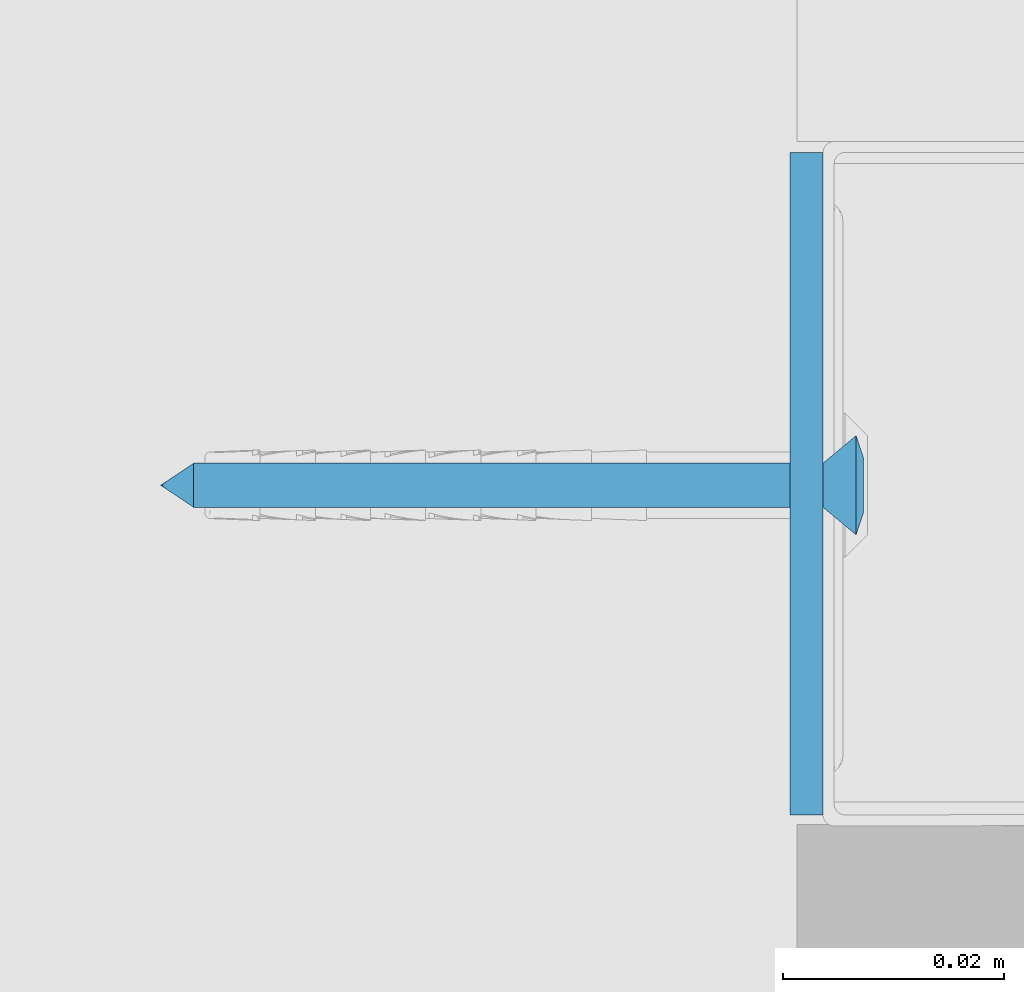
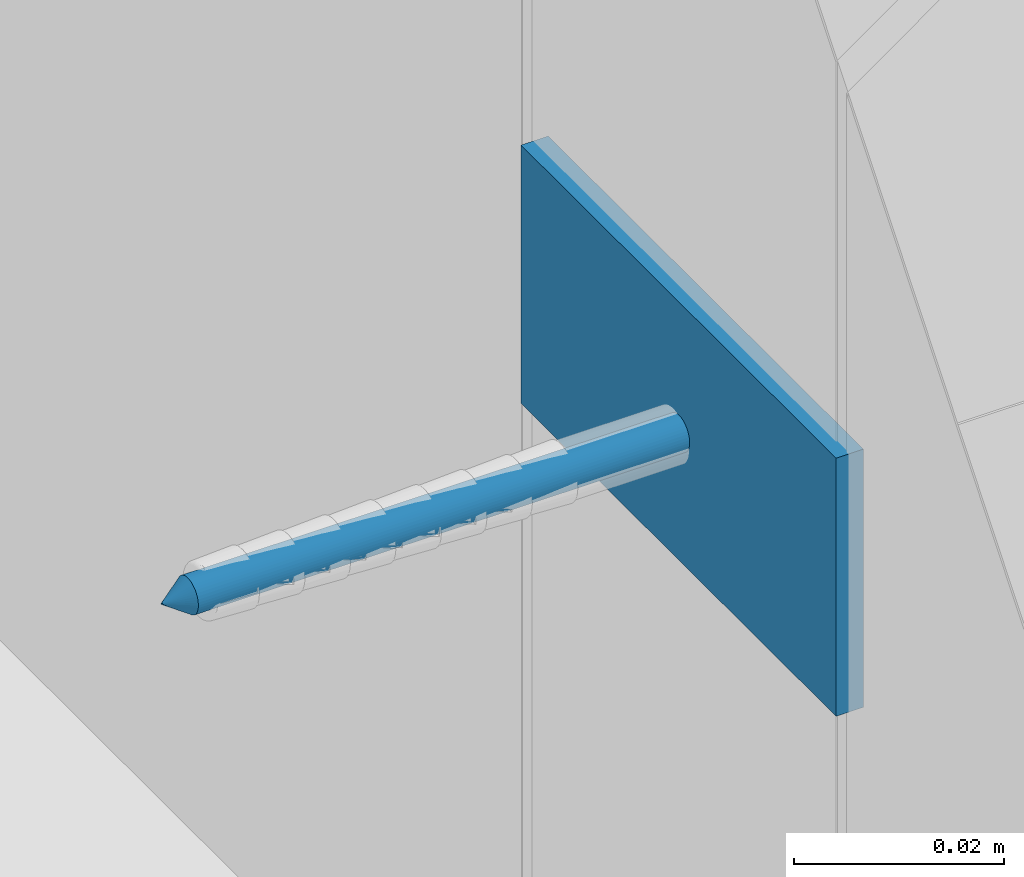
# One storey, part 34 of 62: 2 walls.
"""IFC2X3 building model written with IfcOpenShell, lengths in millimetres."""

from ifc_helpers import new_model, si_unit, frame, origin_with_axes, place, context, subcontext, project, spatial, faceted_brep, material, type_object, element, save


model = new_model("IFC2X3")

# Units and contexts
model_context = context("Model", 3, world=origin_with_axes())
body_context = subcontext(model_context, "Body", "Model", "MODEL_VIEW")
ifc_project = project(units=[si_unit("LENGTHUNIT", "METRE", prefix="MILLI"), si_unit("AREAUNIT", "SQUARE_METRE"), si_unit("VOLUMEUNIT", "CUBIC_METRE")], contexts=[model_context])

# Site, building, storey
site_placement = place(None, frame((2152.14102611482, -2015.0250894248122, 57.61556563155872), z_axis=(0.0, 0.0, 1.0), x_axis=(-1.1102230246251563e-16, 1.0, 0.0)))
site = spatial("IfcSite", under=ifc_project, at=site_placement, Name="Default Site", CompositionType="ELEMENT")
building_placement = place(site_placement, origin_with_axes())
building = spatial("IfcBuilding", under=site, at=building_placement, Name="Default Building", CompositionType="ELEMENT")
storey_placement = place(building_placement, origin_with_axes())
storey = spatial("IfcBuildingStorey", under=building, at=storey_placement, Name="Default Building Storey", CompositionType="ELEMENT", Elevation=57.61556563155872)

# Walls
ifc_material = material(Name="Default")
wall_type_1 = type_object("IfcWallType", Name="Kołek rozporowy min. fi 6#35", PredefinedType="NOTDEFINED")
wall_1_placement = place(storey_placement, frame((5691.176283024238, 2016.3286110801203, 1539.671890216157), z_axis=(-6.858158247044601e-13, -1.0, 7.64238051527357e-14), x_axis=(-1.6476028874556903e-11, 7.642380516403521e-14, 1.0)))
element("IfcWall", 1, at=wall_1_placement, inside=storey, type_object=wall_type_1, material=ifc_material, Name="Kołek rozporowy min. fi 6", context=body_context, shape_type="Brep", body=[
    faceted_brep([(-1438.3141994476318, 3453.2833099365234, -0.46425670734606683), (-1435.8141422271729, 3453.2833099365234, -3.464256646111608), (-1435.7895851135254, 3452.970266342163, -3.464256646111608), (-1438.2587671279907, 3452.579259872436, -0.46425670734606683), (-1435.7162714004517, 3452.6650905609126, -3.464256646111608), (-1438.093900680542, 3451.892614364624, -0.46425670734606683), (-1435.5961084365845, 3452.3751735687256, -3.464256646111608), (-1437.8236532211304, 3451.240301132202, -0.46425670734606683), (-1435.4321956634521, 3452.107667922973, -3.464256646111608), (-1437.4547004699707, 3450.6382942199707, -0.46425670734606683), (-1435.22834777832, 3451.8690109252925, -3.464256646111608), (-1436.9961023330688, 3450.101137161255, -0.46425670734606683), (-1434.9896907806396, 3451.665163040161, -3.464256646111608), (-1436.4591836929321, 3449.642658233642, -0.46425670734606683), (-1434.7221851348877, 3451.501131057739, -3.464256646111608), (-1435.8570575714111, 3449.2735862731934, -0.46425670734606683), (-1434.4321489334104, 3451.381206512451, -3.464256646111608), (-1435.2047443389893, 3449.0034580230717, -0.46425670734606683), (-1434.1269731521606, 3451.307773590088, -3.464256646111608), (-1434.5180988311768, 3448.838710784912, -0.46425670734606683), (-1433.8141679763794, 3451.28321647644, -3.464256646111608), (-1433.8141679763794, 3448.7831592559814, -0.46425670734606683), (-1433.5012435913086, 3451.307773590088, -3.464256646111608), (-1433.110237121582, 3448.838710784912, -0.46425670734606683), (-1433.1960678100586, 3451.381206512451, -3.464256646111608), (-1432.4235916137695, 3449.0034580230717, -0.46425670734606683), (-1432.9061508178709, 3451.501131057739, -3.464256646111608), (-1431.771159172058, 3449.2735862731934, -0.46425670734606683), (-1432.6385259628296, 3451.665163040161, -3.464256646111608), (-1431.1691522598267, 3449.642658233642, -0.46425670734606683), (-1432.3999881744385, 3451.8690109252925, -3.464256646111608), (-1430.6321144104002, 3450.101137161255, -0.46425670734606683), (-1432.1961402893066, 3452.107667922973, -3.464256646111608), (-1430.1735162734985, 3450.6382942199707, -0.46425670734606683), (-1432.0321083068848, 3452.3751735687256, -3.464256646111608), (-1429.8045635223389, 3451.240301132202, -0.46425670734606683), (-1431.9120645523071, 3452.6650905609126, -3.464256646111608), (-1429.5344352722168, 3451.892614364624, -0.46425670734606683), (-1431.8387508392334, 3453.5961151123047, -3.464256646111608), (-1429.369568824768, 3453.9871215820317, -0.46425670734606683), (-1429.314136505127, 3453.2833099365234, -0.46425670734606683), (-1431.814193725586, 3453.2833099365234, -3.464256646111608), (-1429.369568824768, 3452.579259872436, -0.46425670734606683), (-1431.8387508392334, 3452.970266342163, -3.464256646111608), (-1431.9120645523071, 3453.9012908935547, -3.464256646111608), (-1429.5344352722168, 3454.6737670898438, -0.46425670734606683), (-1432.0321083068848, 3454.191207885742, -3.464256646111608), (-1429.8045635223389, 3455.3260803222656, -0.46425670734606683), (-1432.1961402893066, 3454.458713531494, -3.464256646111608), (-1430.1735162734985, 3455.9283256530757, -0.46425670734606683), (-1432.3999881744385, 3454.6973705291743, -3.464256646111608), (-1430.6321144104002, 3456.465244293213, -0.46425670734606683), (-1432.6385259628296, 3454.9012184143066, -3.464256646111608), (-1431.1691522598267, 3456.923723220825, -0.46425670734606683), (-1432.9061508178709, 3455.065250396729, -3.464256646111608), (-1431.771159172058, 3457.2927951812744, -0.46425670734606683), (-1433.1960678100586, 3455.1854133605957, -3.464256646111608), (-1432.4235916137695, 3457.562923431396, -0.46425670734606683), (-1433.5012435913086, 3455.25860786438, -3.464256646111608), (-1433.110237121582, 3457.7279090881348, -0.46425670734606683), (-1433.8141679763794, 3455.283164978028, -3.464256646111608), (-1433.8141679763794, 3457.7832221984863, -0.46425670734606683), (-1434.3430995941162, 3457.7519893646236, -0.46425670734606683), (-1434.1269731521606, 3455.25860786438, -3.464256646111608), (-1434.4321489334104, 3455.1854133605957, -3.464256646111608), (-1434.8646402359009, 3457.6590061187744, -0.46425670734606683), (-1435.3716373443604, 3457.504987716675, -0.46425670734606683), (-1434.7221851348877, 3455.065250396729, -3.464256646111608), (-1435.8570575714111, 3457.2927951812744, -0.46425670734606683), (-1434.9896907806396, 3454.9012184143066, -3.464256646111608), (-1435.22834777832, 3454.6973705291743, -3.464256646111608), (-1436.3142251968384, 3457.024812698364, -0.46425670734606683), (-1436.7367029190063, 3456.705093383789, -0.46425670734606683), (-1437.118649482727, 3456.337928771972, -0.46425670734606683), (-1437.4547004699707, 3455.9283256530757, -0.46425670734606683), (-1435.4321956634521, 3454.458713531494, -3.464256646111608), (-1435.5961084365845, 3454.191207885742, -3.464256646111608), (-1437.8236532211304, 3455.3260803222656, -0.46425670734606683), (-1435.7162714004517, 3453.9012908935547, -3.464256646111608), (-1438.093900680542, 3454.6737670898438, -0.46425670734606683), (-1435.7895851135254, 3453.5961151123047, -3.464256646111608), (-1438.2587671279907, 3453.9871215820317, -0.46425670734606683), (-1434.2052936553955, 3455.752372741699, 0.20073754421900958), (-1433.8141679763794, 3455.7831287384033, 0.20073754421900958), (-1434.5866441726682, 3455.6608200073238, 0.20073754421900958), (-1434.9491596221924, 3455.510854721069, 0.20073754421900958), (-1435.2836608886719, 3455.305814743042, 0.20073754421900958), (-1435.581922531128, 3455.0509452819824, 0.20073754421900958), (-1435.836672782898, 3454.7526836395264, 0.20073754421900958), (-1436.0417127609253, 3454.418182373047, 0.20073754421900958), (-1436.1917972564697, 3454.0557861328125, 0.20073754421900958), (-1436.2833499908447, 3453.6743164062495, 0.20073754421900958), (-1436.3141059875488, 3453.2833099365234, 0.20073754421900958), (-1436.2833499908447, 3452.8920650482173, 0.20073754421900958), (-1436.1917972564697, 3452.5105953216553, 0.20073754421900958), (-1436.0417127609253, 3452.148199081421, 0.20073754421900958), (-1435.836672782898, 3451.8136978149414, 0.20073754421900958), (-1435.581922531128, 3451.5154361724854, 0.20073754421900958), (-1435.2836608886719, 3451.260566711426, 0.20073754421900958), (-1434.9491596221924, 3451.0557651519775, 0.20073754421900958), (-1434.5866441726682, 3450.905561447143, 0.20073754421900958), (-1433.4230422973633, 3450.8140087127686, 0.20073754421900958), (-1433.8141679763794, 3450.7832527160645, 0.20073754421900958), (-1434.2052936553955, 3450.8140087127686, 0.20073754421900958), (-1433.0415725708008, 3450.905561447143, 0.20073754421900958), (-1432.6791763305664, 3451.0557651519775, 0.20073754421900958), (-1432.344675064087, 3451.260566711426, 0.20073754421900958), (-1432.0464134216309, 3451.5154361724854, 0.20073754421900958), (-1431.7916631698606, 3451.8136978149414, 0.20073754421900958), (-1431.5866231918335, 3452.148199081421, 0.20073754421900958), (-1431.436538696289, 3452.5105953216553, 0.20073754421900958), (-1431.344985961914, 3452.8920650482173, 0.20073754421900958), (-1431.3141107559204, 3453.2833099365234, 0.20073754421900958), (-1431.344985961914, 3453.6743164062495, 0.20073754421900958), (-1431.436538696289, 3454.0557861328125, 0.20073754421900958), (-1431.5866231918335, 3454.418182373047, 0.20073754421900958), (-1431.7916631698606, 3454.7526836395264, 0.20073754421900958), (-1432.0464134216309, 3455.0509452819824, 0.20073754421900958), (-1432.344675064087, 3455.305814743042, 0.20073754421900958), (-1432.6791763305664, 3455.510854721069, 0.20073754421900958), (-1433.0415725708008, 3455.6608200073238, 0.20073754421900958), (-1433.4230422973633, 3455.752372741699, 0.20073754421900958), (-1433.8141679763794, 3453.2833099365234, -63.46425414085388), (-1435.7895851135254, 3452.970266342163, -60.464255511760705), (-1435.8141422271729, 3453.2833099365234, -60.464255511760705), (-1435.7162714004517, 3452.6650905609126, -60.464255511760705), (-1435.5961084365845, 3452.3751735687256, -60.464255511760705), (-1435.4321956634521, 3452.107667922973, -60.464255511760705), (-1435.22834777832, 3451.8690109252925, -60.464255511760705), (-1434.9896907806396, 3451.665163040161, -60.464255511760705), (-1434.7221851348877, 3451.501131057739, -60.464255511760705), (-1434.4321489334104, 3451.381206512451, -60.464255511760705), (-1434.1269731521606, 3451.307773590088, -60.464255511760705), (-1433.8141679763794, 3451.28321647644, -60.464255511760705), (-1433.5012435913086, 3451.307773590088, -60.464255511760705), (-1433.1960678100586, 3451.381206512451, -60.464255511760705), (-1432.9061508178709, 3451.501131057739, -60.464255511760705), (-1432.6385259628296, 3451.665163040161, -60.464255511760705), (-1432.3999881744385, 3451.8690109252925, -60.464255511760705), (-1432.1961402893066, 3452.107667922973, -60.464255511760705), (-1432.0321083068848, 3452.3751735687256, -60.464255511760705), (-1431.9120645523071, 3452.6650905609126, -60.464255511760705), (-1431.8387508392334, 3452.970266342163, -60.464255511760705), (-1431.814193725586, 3453.2833099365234, -60.464255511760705), (-1431.8387508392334, 3453.5961151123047, -60.464255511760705), (-1431.9120645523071, 3453.9012908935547, -60.464255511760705), (-1432.0321083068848, 3454.191207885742, -60.464255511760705), (-1432.1961402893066, 3454.458713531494, -60.464255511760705), (-1432.3999881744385, 3454.6973705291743, -60.464255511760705), (-1432.6385259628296, 3454.9012184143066, -60.464255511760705), (-1432.9061508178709, 3455.065250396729, -60.464255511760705), (-1433.1960678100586, 3455.1854133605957, -60.464255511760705), (-1433.5012435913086, 3455.25860786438, -60.464255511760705), (-1433.8141679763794, 3455.283164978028, -60.464255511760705), (-1434.1269731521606, 3455.25860786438, -60.464255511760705), (-1434.4321489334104, 3455.1854133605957, -60.464255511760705), (-1434.7221851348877, 3455.065250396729, -60.464255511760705), (-1434.9896907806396, 3454.9012184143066, -60.464255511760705), (-1435.22834777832, 3454.6973705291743, -60.464255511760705), (-1435.4321956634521, 3454.458713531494, -60.464255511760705), (-1435.5961084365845, 3454.191207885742, -60.464255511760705), (-1435.7162714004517, 3453.9012908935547, -60.464255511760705), (-1435.7895851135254, 3453.5961151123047, -60.464255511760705), (-1436.0417127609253, 3454.418182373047, 0.049999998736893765), (-1436.1917972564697, 3454.0557861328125, 0.049999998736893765), (-1436.2833499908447, 3453.6743164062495, 0.049999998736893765), (-1436.3141059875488, 3453.2833099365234, 0.049999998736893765), (-1436.2833499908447, 3452.8920650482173, 0.049999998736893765), (-1436.1917972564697, 3452.5105953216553, 0.049999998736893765), (-1436.0417127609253, 3452.148199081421, 0.049999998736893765), (-1435.836672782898, 3451.8136978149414, 0.049999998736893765), (-1435.581922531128, 3451.5154361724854, 0.049999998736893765), (-1435.2836608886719, 3451.260566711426, 0.049999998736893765), (-1434.9491596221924, 3451.0557651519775, 0.049999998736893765), (-1434.5866441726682, 3450.905561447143, 0.049999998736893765), (-1434.2052936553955, 3450.8140087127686, 0.049999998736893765), (-1433.8141679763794, 3450.7832527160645, 0.049999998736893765), (-1433.4230422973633, 3450.8140087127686, 0.049999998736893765), (-1433.0415725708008, 3450.905561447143, 0.049999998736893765), (-1432.6791763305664, 3451.0557651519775, 0.049999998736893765), (-1432.344675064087, 3451.260566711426, 0.049999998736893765), (-1432.0464134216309, 3451.5154361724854, 0.049999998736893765), (-1431.7916631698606, 3451.8136978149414, 0.049999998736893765), (-1431.5866231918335, 3452.148199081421, 0.049999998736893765), (-1431.436538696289, 3452.5105953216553, 0.049999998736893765), (-1431.344985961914, 3452.8920650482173, 0.049999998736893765), (-1431.3141107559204, 3453.2833099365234, 0.049999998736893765), (-1431.344985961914, 3453.6743164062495, 0.049999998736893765), (-1431.436538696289, 3454.0557861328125, 0.049999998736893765), (-1431.5866231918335, 3454.418182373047, 0.049999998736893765), (-1431.7916631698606, 3454.7526836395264, 0.049999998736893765), (-1432.0464134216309, 3455.0509452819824, 0.049999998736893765), (-1432.344675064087, 3455.305814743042, 0.049999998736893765), (-1432.6791763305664, 3455.510854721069, 0.049999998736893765), (-1433.0415725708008, 3455.6608200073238, 0.049999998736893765), (-1433.4230422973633, 3455.752372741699, 0.049999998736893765), (-1433.8141679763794, 3455.7831287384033, 0.049999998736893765), (-1434.2052936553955, 3455.752372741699, 0.049999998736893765), (-1434.5866441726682, 3455.6608200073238, 0.049999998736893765), (-1434.9491596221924, 3455.510854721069, 0.049999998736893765), (-1435.2836608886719, 3455.305814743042, 0.049999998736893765), (-1435.581922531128, 3455.0509452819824, 0.049999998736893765), (-1435.836672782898, 3454.7526836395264, 0.049999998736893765), (-1434.3141317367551, 3452.7831077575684, 0.049999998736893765), (-1435.8141422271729, 3452.7831077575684, 0.049999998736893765), (-1435.8141422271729, 3453.7832736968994, 0.049999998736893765), (-1434.3141317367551, 3453.7832736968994, 0.049999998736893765), (-1434.3141317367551, 3455.283164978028, 0.049999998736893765), (-1433.3142042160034, 3455.283164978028, 0.049999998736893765), (-1433.3142042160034, 3453.7832736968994, 0.049999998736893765), (-1431.814193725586, 3453.7832736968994, 0.049999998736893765), (-1431.814193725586, 3452.7831077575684, 0.049999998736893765), (-1433.3142042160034, 3452.7831077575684, 0.049999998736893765), (-1433.3142042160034, 3451.28321647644, 0.049999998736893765), (-1434.3141317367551, 3451.28321647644, 0.049999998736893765), (-1434.3141317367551, 3452.7831077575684, -1.799262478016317), (-1434.3141317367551, 3451.28321647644, -1.799262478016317), (-1433.3142042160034, 3451.28321647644, -1.799262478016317), (-1433.3142042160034, 3452.7831077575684, -1.799262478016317), (-1431.814193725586, 3452.7831077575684, -1.799262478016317), (-1431.814193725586, 3453.7832736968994, -1.799262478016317), (-1433.3142042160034, 3453.7832736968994, -1.799262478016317), (-1433.3142042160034, 3455.283164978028, -1.799262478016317), (-1434.3141317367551, 3455.283164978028, -1.799262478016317), (-1434.3141317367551, 3453.7832736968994, -1.799262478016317), (-1435.8141422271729, 3453.7832736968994, -1.799262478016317), (-1435.8141422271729, 3452.7831077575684, -1.799262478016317)], [[[0, 1, 2, 3]], [[4, 5, 3, 2]], [[6, 7, 5, 4]], [[7, 6, 8, 9]], [[10, 11, 9, 8]], [[11, 10, 12, 13]], [[14, 15, 13, 12]], [[16, 17, 15, 14]], [[17, 16, 18, 19]], [[20, 21, 19, 18]], [[21, 20, 22, 23]], [[24, 25, 23, 22]], [[26, 27, 25, 24]], [[27, 26, 28, 29]], [[30, 31, 29, 28]], [[31, 30, 32, 33]], [[34, 35, 33, 32]], [[36, 37, 35, 34]], [[38, 39, 40, 41]], [[41, 40, 42, 43]], [[37, 36, 43, 42]], [[44, 45, 39, 38]], [[46, 47, 45, 44]], [[47, 46, 48, 49]], [[50, 51, 49, 48]], [[51, 50, 52, 53]], [[54, 55, 53, 52]], [[56, 57, 55, 54]], [[57, 56, 58, 59]], [[60, 61, 59, 58]], [[62, 61, 63]], [[61, 60, 63]], [[63, 64, 62]], [[64, 65, 62]], [[66, 65, 64]], [[64, 67, 66]], [[67, 68, 66]], [[69, 70, 71]], [[70, 72, 71]], [[71, 68, 69]], [[68, 67, 69]], [[70, 73, 72]], [[74, 73, 75]], [[73, 70, 75]], [[76, 77, 74, 75]], [[78, 79, 77, 76]], [[79, 78, 80, 81]], [[1, 0, 81, 80]], [[82, 83, 62]], [[83, 61, 62]], [[62, 65, 82]], [[65, 84, 82]], [[66, 68, 84]], [[68, 85, 84]], [[84, 65, 66]], [[86, 85, 71]], [[85, 68, 71]], [[72, 73, 87]], [[87, 86, 72]], [[86, 71, 72]], [[88, 87, 74]], [[87, 73, 74]], [[77, 89, 88, 74]], [[79, 90, 89, 77]], [[90, 79, 81, 91]], [[0, 92, 91, 81]], [[92, 0, 3, 93]], [[5, 94, 93, 3]], [[7, 95, 94, 5]], [[95, 7, 9, 96]], [[11, 97, 96, 9]], [[97, 11, 13, 98]], [[15, 99, 98, 13]], [[17, 100, 99, 15]], [[23, 101, 102, 21]], [[21, 102, 103, 19]], [[100, 17, 19, 103]], [[25, 104, 101, 23]], [[27, 105, 104, 25]], [[105, 27, 29, 106]], [[31, 107, 106, 29]], [[107, 31, 33, 108]], [[35, 109, 108, 33]], [[37, 110, 109, 35]], [[110, 37, 42, 111]], [[40, 112, 111, 42]], [[112, 40, 39, 113]], [[45, 114, 113, 39]], [[47, 115, 114, 45]], [[115, 47, 49, 116]], [[51, 117, 116, 49]], [[117, 51, 53, 118]], [[55, 119, 118, 53]], [[57, 120, 119, 55]], [[120, 57, 59, 121]], [[61, 83, 121, 59]], [[122, 123, 124]], [[122, 125, 123]], [[122, 126, 125]], [[127, 126, 122]], [[122, 128, 127]], [[129, 128, 122]], [[122, 130, 129]], [[122, 131, 130]], [[132, 131, 122]], [[122, 133, 132]], [[134, 133, 122]], [[122, 135, 134]], [[122, 136, 135]], [[137, 136, 122]], [[122, 138, 137]], [[139, 138, 122]], [[122, 140, 139]], [[122, 141, 140]], [[142, 141, 122]], [[122, 143, 142]], [[144, 143, 122]], [[122, 145, 144]], [[122, 146, 145]], [[147, 146, 122]], [[122, 148, 147]], [[149, 148, 122]], [[122, 150, 149]], [[122, 151, 150]], [[152, 151, 122]], [[122, 153, 152]], [[154, 153, 122]], [[122, 155, 154]], [[122, 156, 155]], [[157, 156, 122]], [[122, 158, 157]], [[159, 158, 122]], [[122, 160, 159]], [[122, 161, 160]], [[162, 161, 122]], [[124, 162, 122]], [[1, 124, 123, 2]], [[125, 4, 2, 123]], [[126, 6, 4, 125]], [[6, 126, 127, 8]], [[128, 10, 8, 127]], [[10, 128, 129, 12]], [[130, 14, 12, 129]], [[131, 16, 14, 130]], [[16, 131, 132, 18]], [[133, 20, 18, 132]], [[20, 133, 134, 22]], [[135, 24, 22, 134]], [[136, 26, 24, 135]], [[26, 136, 137, 28]], [[138, 30, 28, 137]], [[30, 138, 139, 32]], [[140, 34, 32, 139]], [[141, 36, 34, 140]], [[144, 38, 41, 143]], [[143, 41, 43, 142]], [[36, 141, 142, 43]], [[145, 44, 38, 144]], [[146, 46, 44, 145]], [[46, 146, 147, 48]], [[148, 50, 48, 147]], [[50, 148, 149, 52]], [[150, 54, 52, 149]], [[151, 56, 54, 150]], [[56, 151, 152, 58]], [[153, 60, 58, 152]], [[60, 153, 154, 63]], [[155, 64, 63, 154]], [[156, 67, 64, 155]], [[67, 156, 157, 69]], [[158, 70, 69, 157]], [[70, 158, 159, 75]], [[160, 76, 75, 159]], [[161, 78, 76, 160]], [[78, 161, 162, 80]], [[124, 1, 80, 162]], [[163, 164, 165, 166, 167, 168, 169, 170, 171, 172, 173, 174, 175, 176, 177, 178, 179, 180, 181, 182, 183, 184, 185, 186, 187, 188, 189, 190, 191, 192, 193, 194, 195, 196, 197, 198, 199, 200, 201, 202], [203, 204, 205, 206, 207, 208, 209, 210, 211, 212, 213, 214]], [[187, 186, 112, 113]], [[113, 114, 188, 187]], [[114, 115, 189, 188]], [[190, 189, 115, 116]], [[116, 117, 191, 190]], [[192, 191, 117, 118]], [[118, 119, 193, 192]], [[119, 120, 194, 193]], [[195, 194, 120, 121]], [[121, 83, 196, 195]], [[197, 196, 83, 82]], [[82, 84, 198, 197]], [[84, 85, 199, 198]], [[200, 199, 85, 86]], [[86, 87, 201, 200]], [[202, 201, 87, 88]], [[88, 89, 163, 202]], [[89, 90, 164, 163]], [[92, 93, 167, 166]], [[91, 92, 166, 165]], [[165, 164, 90, 91]], [[93, 94, 168, 167]], [[94, 95, 169, 168]], [[170, 169, 95, 96]], [[96, 97, 171, 170]], [[172, 171, 97, 98]], [[98, 99, 173, 172]], [[99, 100, 174, 173]], [[175, 174, 100, 103]], [[103, 102, 176, 175]], [[177, 176, 102, 101]], [[101, 104, 178, 177]], [[104, 105, 179, 178]], [[180, 179, 105, 106]], [[106, 107, 181, 180]], [[182, 181, 107, 108]], [[108, 109, 183, 182]], [[109, 110, 184, 183]], [[185, 184, 110, 111]], [[111, 112, 186, 185]], [[215, 216, 217, 218, 219, 220, 221, 222, 223, 224, 225, 226]], [[216, 214, 213, 217]], [[215, 203, 214, 216]], [[226, 204, 203, 215]], [[225, 205, 204, 226]], [[224, 206, 205, 225]], [[223, 207, 206, 224]], [[222, 208, 207, 223]], [[221, 209, 208, 222]], [[220, 210, 209, 221]], [[219, 211, 210, 220]], [[218, 212, 211, 219]], [[217, 213, 212, 218]]]),
])
wall_type_2 = type_object("IfcWallType", Name="Taśma uszczelniająca piankowa RIGIPS szer.30mm#9", PredefinedType="NOTDEFINED")
wall_2_placement = place(storey_placement, frame((2208.0370864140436, 2019.778611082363, 120.96024801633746), z_axis=(0.0, 0.0, 1.0), x_axis=(1.0, 0.0, 0.0)))
element("IfcWall", 2, at=wall_2_placement, inside=storey, type_object=wall_type_2, material=ifc_material, Name="Taśma uszczelniająca piankowa RIGIPS szer.30mm", context=body_context, shape_type="Brep", body=[
    faceted_brep([(59.99999865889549, 0.0, 4.511946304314e-12), (0.0, 0.0, 0.0), (1.0828671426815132e-12, -2.2379254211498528e-11, -29.999999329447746), (59.99999865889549, -2.2379254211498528e-11, -29.999999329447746), (0.0, 3.000000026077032, 0.0), (1.0828671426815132e-12, 3.000000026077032, -29.999999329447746), (59.99999865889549, 3.000000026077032, 0.0), (59.99999865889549, 3.000000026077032, -29.999999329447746)], [[[0, 1, 2, 3]], [[1, 4, 5, 2]], [[4, 6, 7, 5]], [[6, 0, 3, 7]], [[7, 3, 2, 5]], [[0, 6, 4, 1]]]),
])

save(model, "model.ifc")
